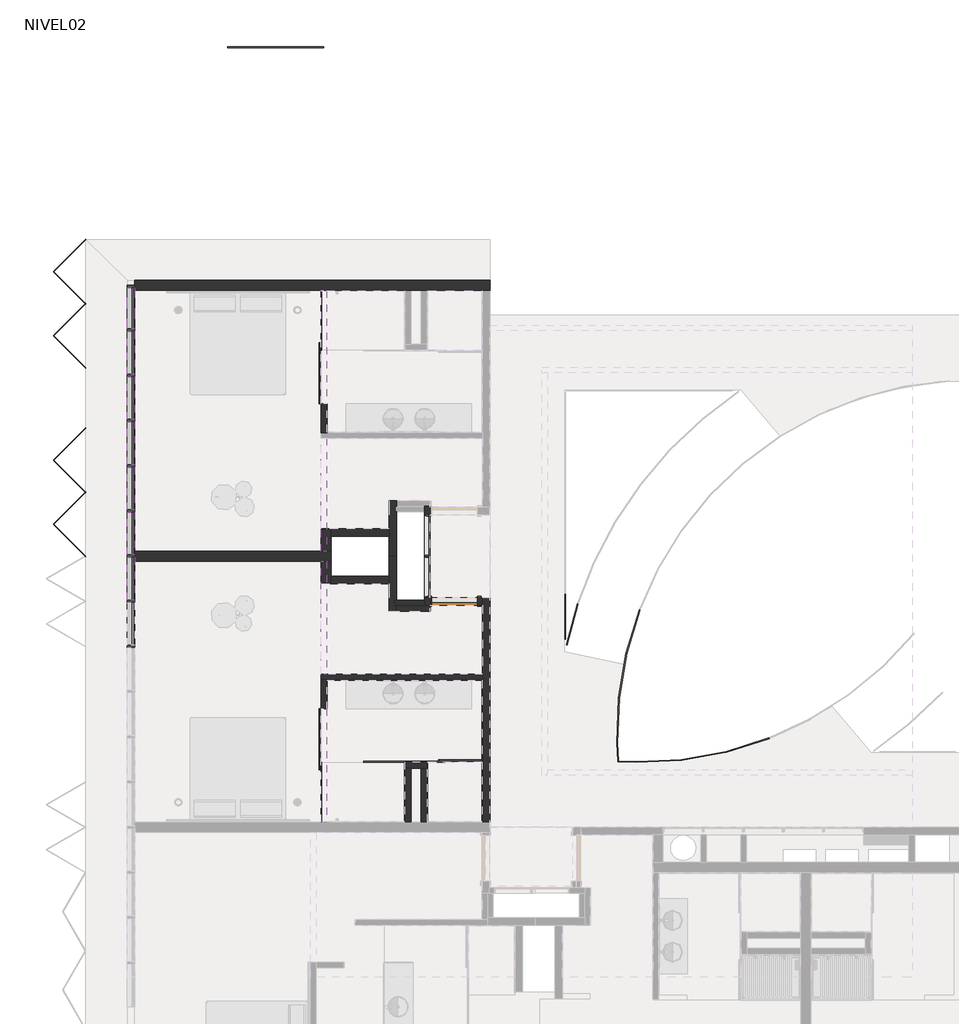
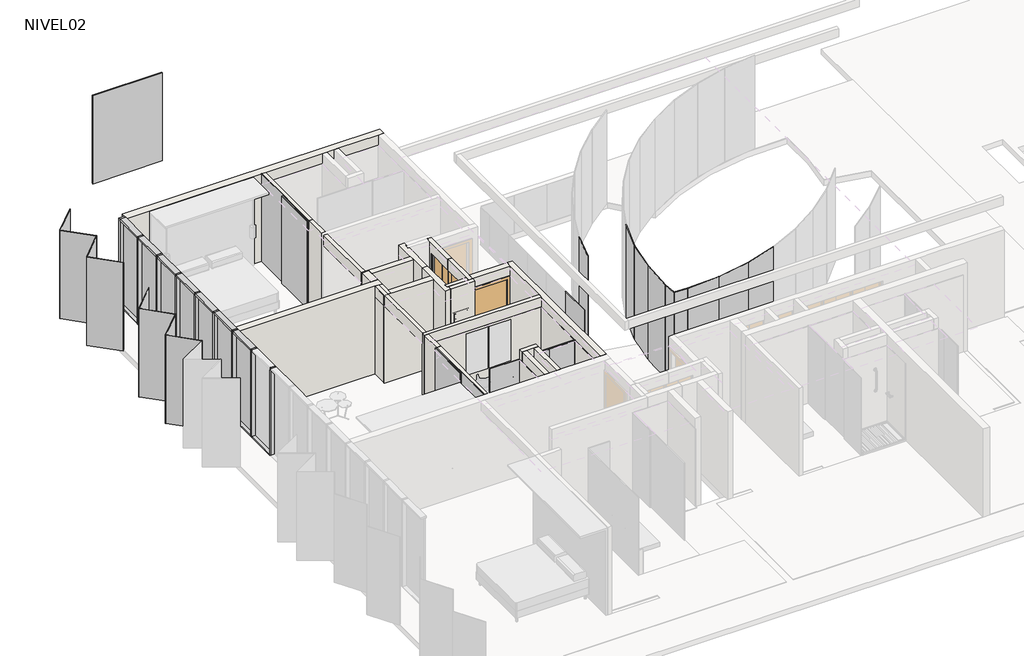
# One storey, part 5 of 9: 30 walls, 25 plates, 24 members, 3 doors.
"""IFC4 building model written with IfcOpenShell, lengths in millimetres."""

from ifc_helpers import new_model, si_unit, frame, origin, place, context, project, spatial, polyline, outline, extrude, faceted_brep, transform, mapped, element, save
from components import m_single_flush_910x_224_d199ccfa, puerta_closet_shaft_82_5_x_224cm_10222c01, puerta_closet_shaft_82_5_x_224cm_6ba6ac82, rectangular_mullion_50_x_150mm_8dc60d6a, rectangular_mullion_50_x_150mm_324a6438, rectangular_mullion_50_x_150mm_33c2bde1, rectangular_mullion_50_x_150mm_da4cfd0d, folding_hd_folding_hd_45_306ecaba, panel_corredera_cr_panel_corredera_1cb9417a, panel_corredera_cr_panel_corredera_8db39db7, panel_corredera_cr_panel_corredera_0b5135b5, system_panel_5ccbd7a3, system_panel_d16f8cfc, system_panel_5bddcc3b, system_panel_ba3bad07, system_panel_cr_shower_c0953742, system_panel_cr_shower_685ec66b, system_panel_cr_shower_d0c7b907, system_panel_glazed_2e5426c8, system_panel_glazed_8b30d0e9, system_panel_glazed_8b1c2311

model = new_model("IFC4")

# Units and contexts
model_context = context("Model", 3, world=origin())
ifc_project = project(units=[si_unit("LENGTHUNIT", "METRE", prefix="MILLI")], contexts=[model_context])

# Site, building, storey
site = spatial("IfcSite", under=ifc_project)
building = spatial("IfcBuilding", under=site)
storey = spatial("IfcBuildingStorey", under=building, Name="NIVEL02", Elevation=2500.0)

# Doors
placement = place(None, origin())
m_single_flush_910x_224_shape = m_single_flush_910x_224_d199ccfa(model_context)
element("IfcDoor", 1, ObjectType="M_Single-Flush : 910x 224", at=placement, inside=storey, context=model_context, shape_type="MappedRepresentation", body=[
    mapped(m_single_flush_910x_224_shape, transform((-14191.0934748, 4233.9139241, 2500.0), x_axis=(1.0, 0.0, 0.0), y_axis=(0.0, 1.0, 0.0), z_axis=(0.0, 0.0, 1.0))),
])
puerta_closet_shaft_82_5_x_224cm_shape = puerta_closet_shaft_82_5_x_224cm_10222c01(model_context)
element("IfcDoor", 2, ObjectType="PUERTA CLOSET SHAFT : 82.5 x 224cm", at=placement, inside=storey, context=model_context, shape_type="MappedRepresentation", body=[
    mapped(puerta_closet_shaft_82_5_x_224cm_shape, transform((-14728.5934748, 4404.8823532, 2500.0), x_axis=(0.0, -1.0, 0.0), y_axis=(1.0, 0.0, 0.0), z_axis=(0.0, 0.0, 1.0))),
])
puerta_closet_shaft_82_5_x_224cm_2_shape = puerta_closet_shaft_82_5_x_224cm_6ba6ac82(model_context)
element("IfcDoor", 3, ObjectType="PUERTA CLOSET SHAFT : 82.5 x 224cm", at=placement, inside=storey, context=model_context, shape_type="MappedRepresentation", body=[
    mapped(puerta_closet_shaft_82_5_x_224cm_2_shape, transform((-14728.5934748, 5862.9454949, 2500.0), x_axis=(0.0, 1.0, 0.0), y_axis=(-1.0, 0.0, 0.0), z_axis=(0.0, 0.0, 1.0))),
])

# Members
rectangular_mullion_50_x_150mm_shape = rectangular_mullion_50_x_150mm_8dc60d6a(model_context)
element("IfcMember", 4, ObjectType="Rectangular Mullion : 50 x 150mm", at=placement, inside=storey, context=model_context, shape_type="MappedRepresentation", body=[
    mapped(rectangular_mullion_50_x_150mm_shape, transform((-20633.5934748, 9658.9139237, 5050.0), x_axis=(0.0, 0.0, 1.0), y_axis=(-1.0, 0.0, 0.0), z_axis=(0.0, -1.0, 0.0))),
])
rectangular_mullion_50_x_150mm_2_shape = rectangular_mullion_50_x_150mm_324a6438(model_context)
element("IfcMember", 5, ObjectType="Rectangular Mullion : 50 x 150mm", at=placement, inside=storey, context=model_context, shape_type="MappedRepresentation", body=[
    mapped(rectangular_mullion_50_x_150mm_2_shape, transform((-20633.5934748, 8758.9139237, 5050.0), x_axis=(0.0, 0.0, 1.0), y_axis=(-1.0, 0.0, 0.0), z_axis=(0.0, -1.0, 0.0))),
])
element("IfcMember", 6, ObjectType="Rectangular Mullion : 50 x 150mm", at=placement, inside=storey, context=model_context, shape_type="MappedRepresentation", body=[
    mapped(rectangular_mullion_50_x_150mm_2_shape, transform((-20633.5934748, 7858.9139237, 5050.0), x_axis=(0.0, 0.0, 1.0), y_axis=(-1.0, 0.0, 0.0), z_axis=(0.0, -1.0, 0.0))),
])
element("IfcMember", 7, ObjectType="Rectangular Mullion : 50 x 150mm", at=placement, inside=storey, context=model_context, shape_type="MappedRepresentation", body=[
    mapped(rectangular_mullion_50_x_150mm_2_shape, transform((-20633.5934748, 6958.9139237, 5050.0), x_axis=(0.0, 0.0, 1.0), y_axis=(-1.0, 0.0, 0.0), z_axis=(0.0, -1.0, 0.0))),
])
element("IfcMember", 8, ObjectType="Rectangular Mullion : 50 x 150mm", at=placement, inside=storey, context=model_context, shape_type="MappedRepresentation", body=[
    mapped(rectangular_mullion_50_x_150mm_2_shape, transform((-20633.5934748, 6058.9139237, 5050.0), x_axis=(0.0, 0.0, 1.0), y_axis=(-1.0, 0.0, 0.0), z_axis=(0.0, -1.0, 0.0))),
])
element("IfcMember", 9, ObjectType="Rectangular Mullion : 50 x 150mm", at=placement, inside=storey, context=model_context, shape_type="MappedRepresentation", body=[
    mapped(rectangular_mullion_50_x_150mm_2_shape, transform((-20633.5934748, 5158.9139237, 5050.0), x_axis=(0.0, 0.0, 1.0), y_axis=(-1.0, 0.0, 0.0), z_axis=(0.0, -1.0, 0.0))),
])
element("IfcMember", 10, ObjectType="Rectangular Mullion : 50 x 150mm", at=placement, inside=storey, context=model_context, shape_type="MappedRepresentation", body=[
    mapped(rectangular_mullion_50_x_150mm_2_shape, transform((-20633.5934748, 4258.9139237, 5050.0), x_axis=(0.0, 0.0, 1.0), y_axis=(-1.0, 0.0, 0.0), z_axis=(0.0, -1.0, 0.0))),
])
element("IfcMember", 11, ObjectType="Rectangular Mullion : 50 x 150mm", at=placement, inside=storey, context=model_context, shape_type="MappedRepresentation", body=[
    mapped(rectangular_mullion_50_x_150mm_shape, transform((-20633.5934748, 10483.9139241, 2480.0), x_axis=(0.0, 0.0, -1.0), y_axis=(-1.0, 0.0, 0.0), z_axis=(0.0, 1.0, 0.0))),
])
element("IfcMember", 12, ObjectType="Rectangular Mullion : 50 x 150mm", at=placement, inside=storey, context=model_context, shape_type="MappedRepresentation", body=[
    mapped(rectangular_mullion_50_x_150mm_2_shape, transform((-20633.5934748, 9608.9139237, 2480.0), x_axis=(0.0, 0.0, -1.0), y_axis=(-1.0, 0.0, 0.0), z_axis=(0.0, 1.0, 0.0))),
])
element("IfcMember", 13, ObjectType="Rectangular Mullion : 50 x 150mm", at=placement, inside=storey, context=model_context, shape_type="MappedRepresentation", body=[
    mapped(rectangular_mullion_50_x_150mm_2_shape, transform((-20633.5934748, 8708.9139237, 2480.0), x_axis=(0.0, 0.0, -1.0), y_axis=(-1.0, 0.0, 0.0), z_axis=(0.0, 1.0, 0.0))),
])
element("IfcMember", 14, ObjectType="Rectangular Mullion : 50 x 150mm", at=placement, inside=storey, context=model_context, shape_type="MappedRepresentation", body=[
    mapped(rectangular_mullion_50_x_150mm_2_shape, transform((-20633.5934748, 7808.9139237, 2480.0), x_axis=(0.0, 0.0, -1.0), y_axis=(-1.0, 0.0, 0.0), z_axis=(0.0, 1.0, 0.0))),
])
element("IfcMember", 15, ObjectType="Rectangular Mullion : 50 x 150mm", at=placement, inside=storey, context=model_context, shape_type="MappedRepresentation", body=[
    mapped(rectangular_mullion_50_x_150mm_2_shape, transform((-20633.5934748, 6908.9139237, 2480.0), x_axis=(0.0, 0.0, -1.0), y_axis=(-1.0, 0.0, 0.0), z_axis=(0.0, 1.0, 0.0))),
])
element("IfcMember", 16, ObjectType="Rectangular Mullion : 50 x 150mm", at=placement, inside=storey, context=model_context, shape_type="MappedRepresentation", body=[
    mapped(rectangular_mullion_50_x_150mm_2_shape, transform((-20633.5934748, 6008.9139237, 2480.0), x_axis=(0.0, 0.0, -1.0), y_axis=(-1.0, 0.0, 0.0), z_axis=(0.0, 1.0, 0.0))),
])
element("IfcMember", 17, ObjectType="Rectangular Mullion : 50 x 150mm", at=placement, inside=storey, context=model_context, shape_type="MappedRepresentation", body=[
    mapped(rectangular_mullion_50_x_150mm_2_shape, transform((-20633.5934748, 5108.9139237, 2480.0), x_axis=(0.0, 0.0, -1.0), y_axis=(-1.0, 0.0, 0.0), z_axis=(0.0, 1.0, 0.0))),
])
element("IfcMember", 18, ObjectType="Rectangular Mullion : 50 x 150mm", at=placement, inside=storey, context=model_context, shape_type="MappedRepresentation", body=[
    mapped(rectangular_mullion_50_x_150mm_2_shape, transform((-20633.5934748, 4208.9139237, 2480.0), x_axis=(0.0, 0.0, -1.0), y_axis=(-1.0, 0.0, 0.0), z_axis=(0.0, 1.0, 0.0))),
])
rectangular_mullion_50_x_150mm_3_shape = rectangular_mullion_50_x_150mm_33c2bde1(model_context)
element("IfcMember", 19, ObjectType="Rectangular Mullion : 50 x 150mm", at=placement, inside=storey, context=model_context, shape_type="MappedRepresentation", body=[
    mapped(rectangular_mullion_50_x_150mm_3_shape, transform((-20633.5934748, 9633.9139237, 2480.0), x_axis=(0.0, -1.0, 0.0), y_axis=(-1.0, 0.0, 0.0), z_axis=(0.0, 0.0, -1.0))),
])
element("IfcMember", 20, ObjectType="Rectangular Mullion : 50 x 150mm", at=placement, inside=storey, context=model_context, shape_type="MappedRepresentation", body=[
    mapped(rectangular_mullion_50_x_150mm_3_shape, transform((-20633.5934748, 8733.9139237, 2480.0), x_axis=(0.0, -1.0, 0.0), y_axis=(-1.0, 0.0, 0.0), z_axis=(0.0, 0.0, -1.0))),
])
element("IfcMember", 21, ObjectType="Rectangular Mullion : 50 x 150mm", at=placement, inside=storey, context=model_context, shape_type="MappedRepresentation", body=[
    mapped(rectangular_mullion_50_x_150mm_3_shape, transform((-20633.5934748, 7833.9139237, 2480.0), x_axis=(0.0, -1.0, 0.0), y_axis=(-1.0, 0.0, 0.0), z_axis=(0.0, 0.0, -1.0))),
])
element("IfcMember", 22, ObjectType="Rectangular Mullion : 50 x 150mm", at=placement, inside=storey, context=model_context, shape_type="MappedRepresentation", body=[
    mapped(rectangular_mullion_50_x_150mm_3_shape, transform((-20633.5934748, 6933.9139237, 2480.0), x_axis=(0.0, -1.0, 0.0), y_axis=(-1.0, 0.0, 0.0), z_axis=(0.0, 0.0, -1.0))),
])
element("IfcMember", 23, ObjectType="Rectangular Mullion : 50 x 150mm", at=placement, inside=storey, context=model_context, shape_type="MappedRepresentation", body=[
    mapped(rectangular_mullion_50_x_150mm_3_shape, transform((-20633.5934748, 6033.9139237, 2480.0), x_axis=(0.0, -1.0, 0.0), y_axis=(-1.0, 0.0, 0.0), z_axis=(0.0, 0.0, -1.0))),
])
element("IfcMember", 24, ObjectType="Rectangular Mullion : 50 x 150mm", at=placement, inside=storey, context=model_context, shape_type="MappedRepresentation", body=[
    mapped(rectangular_mullion_50_x_150mm_3_shape, transform((-20633.5934748, 5133.9139237, 2480.0), x_axis=(0.0, -1.0, 0.0), y_axis=(-1.0, 0.0, 0.0), z_axis=(0.0, 0.0, -1.0))),
])
element("IfcMember", 25, ObjectType="Rectangular Mullion : 50 x 150mm", at=placement, inside=storey, context=model_context, shape_type="MappedRepresentation", body=[
    mapped(rectangular_mullion_50_x_150mm_3_shape, transform((-20633.5934748, 4233.9139237, 2480.0), x_axis=(0.0, -1.0, 0.0), y_axis=(-1.0, 0.0, 0.0), z_axis=(0.0, 0.0, -1.0))),
])
element("IfcMember", 26, ObjectType="Rectangular Mullion : 50 x 150mm", at=placement, inside=storey, context=model_context, shape_type="MappedRepresentation", body=[
    mapped(rectangular_mullion_50_x_150mm_3_shape, transform((-20633.5934748, 3333.9139237, 2480.0), x_axis=(0.0, -1.0, 0.0), y_axis=(-1.0, 0.0, 0.0), z_axis=(0.0, 0.0, -1.0))),
])
rectangular_mullion_50_x_150mm_4_shape = rectangular_mullion_50_x_150mm_da4cfd0d(model_context)
element("IfcMember", 27, ObjectType="Rectangular Mullion : 50 x 150mm", at=placement, inside=storey, context=model_context, shape_type="MappedRepresentation", body=[
    mapped(rectangular_mullion_50_x_150mm_4_shape, transform((-20633.5934748, 10533.9139241, 5050.0), x_axis=(0.0, 1.0, 0.0), y_axis=(-1.0, 0.0, 0.0), z_axis=(0.0, 0.0, 1.0))),
])

# Plates
folding_hd_folding_hd_45_shape = folding_hd_folding_hd_45_306ecaba(model_context)
element("IfcPlate", 28, ObjectType="FOLDING HD : FOLDING HD 45", at=placement, inside=storey, context=model_context, shape_type="MappedRepresentation", body=[
    mapped(folding_hd_folding_hd_45_shape, transform((-21533.5934748, 8283.9139241, 2480.0), x_axis=(0.0, -1.0, 0.0), y_axis=(1.0, 0.0, 0.0), z_axis=(0.0, 0.0, 1.0))),
])
panel_corredera_cr_panel_corredera_shape = panel_corredera_cr_panel_corredera_1cb9417a(model_context)
element("IfcPlate", 29, ObjectType="PANEL CORREDERA : CR_PANEL CORREDERA", at=placement, inside=storey, context=model_context, shape_type="MappedRepresentation", body=[
    mapped(panel_corredera_cr_panel_corredera_shape, transform((-13994.9268082, 1033.9139241, 2500.0), x_axis=(-1.0, 0.0, 0.0), y_axis=(0.0, -1.0, 0.0), z_axis=(0.0, 0.0, 1.0))),
])
panel_corredera_cr_panel_corredera_2_shape = panel_corredera_cr_panel_corredera_8db39db7(model_context)
element("IfcPlate", 30, ObjectType="PANEL CORREDERA : CR_PANEL CORREDERA", at=placement, inside=storey, context=model_context, shape_type="MappedRepresentation", body=[
    mapped(panel_corredera_cr_panel_corredera_2_shape, transform((-16848.5934748, 8703.9139241, 2500.0), x_axis=(0.0, 1.0, 0.0), y_axis=(-1.0, 0.0, 0.0), z_axis=(0.0, 0.0, 1.0))),
])
panel_corredera_cr_panel_corredera_3_shape = panel_corredera_cr_panel_corredera_0b5135b5(model_context)
element("IfcPlate", 31, ObjectType="PANEL CORREDERA : CR_PANEL CORREDERA", at=placement, inside=storey, context=model_context, shape_type="MappedRepresentation", body=[
    mapped(panel_corredera_cr_panel_corredera_3_shape, transform((-16848.5934748, 1563.9139241, 2500.0), x_axis=(0.0, -1.0, 0.0), y_axis=(1.0, 0.0, 0.0), z_axis=(0.0, 0.0, 1.0))),
])
system_panel_shape = system_panel_5ccbd7a3(model_context)
element("IfcPlate", 32, ObjectType="System Panel : CR-BARANDA", at=placement, inside=storey, context=model_context, shape_type="MappedRepresentation", body=[
    mapped(system_panel_shape, transform((-11983.5934748, 3929.0707631, 2500.0), x_axis=(0.0, 1.0, 0.0), y_axis=(-1.0, 0.0, 0.0), z_axis=(0.0, 0.0, 1.0))),
])
system_panel_2_shape = system_panel_d16f8cfc(model_context)
element("IfcPlate", 33, ObjectType="System Panel : CR-BARANDA", at=placement, inside=storey, context=model_context, shape_type="MappedRepresentation", body=[
    mapped(system_panel_2_shape, transform((-10631.3650965, 3630.2261992, 2500.0), x_axis=(-0.2903871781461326, -0.9569092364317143, 0.0), y_axis=(0.9569092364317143, -0.2903871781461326, 0.0), z_axis=(0.0, 0.0, 1.0))),
])
element("IfcPlate", 34, ObjectType="System Panel : CR-BARANDA", at=placement, inside=storey, context=model_context, shape_type="MappedRepresentation", body=[
    mapped(system_panel_2_shape, transform((-10836.7728129, 2755.8660923, 2500.0), x_axis=(-0.16607441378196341, -0.9861132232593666, 0.0), y_axis=(0.9861132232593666, -0.16607441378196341, 0.0), z_axis=(0.0, 0.0, 1.0))),
])
element("IfcPlate", 35, ObjectType="System Panel : CR-BARANDA", at=placement, inside=storey, context=model_context, shape_type="MappedRepresentation", body=[
    mapped(system_panel_2_shape, transform((-10929.0803971, 1862.4584383, 2500.0), x_axis=(-0.03905355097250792, -0.9992371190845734, 0.0), y_axis=(0.9992371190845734, -0.03905355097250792, 0.0), z_axis=(0.0, 0.0, 1.0))),
])
system_panel_3_shape = system_panel_5bddcc3b(model_context)
element("IfcPlate", 36, ObjectType="System Panel : CR-BARANDA", at=placement, inside=storey, context=model_context, shape_type="MappedRepresentation", body=[
    mapped(system_panel_3_shape, transform((-10937.3624941, 1230.0346436, 2500.0), x_axis=(0.05077508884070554, -0.9987101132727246, 0.0), y_axis=(0.9987101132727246, 0.05077508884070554, 0.0), z_axis=(0.0, 0.0, 1.0))),
])
element("IfcPlate", 37, ObjectType="System Panel : CR-BARANDA", at=placement, inside=storey, context=model_context, shape_type="MappedRepresentation", body=[
    mapped(system_panel_2_shape, transform((-8348.5964138, 1372.8791877, 2500.0), x_axis=(-0.9535973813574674, -0.301084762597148, 0.0), y_axis=(0.301084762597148, -0.9535973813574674, 0.0), z_axis=(0.0, 0.0, 1.0))),
])
element("IfcPlate", 38, ObjectType="System Panel : CR-BARANDA", at=placement, inside=storey, context=model_context, shape_type="MappedRepresentation", body=[
    mapped(system_panel_2_shape, transform((-9220.6014704, 1157.6929714, 2500.0), x_axis=(-0.9841916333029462, -0.1771068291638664, 0.0), y_axis=(0.1771068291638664, -0.9841916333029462, 0.0), z_axis=(0.0, 0.0, 1.0))),
])
element("IfcPlate", 39, ObjectType="System Panel : CR-BARANDA", at=placement, inside=storey, context=model_context, shape_type="MappedRepresentation", body=[
    mapped(system_panel_2_shape, transform((-10112.9194133, 1055.3864947, 2500.0), x_axis=(-0.9987371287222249, -0.0502408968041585, 0.0), y_axis=(0.0502408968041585, -0.9987371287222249, 0.0), z_axis=(0.0, 0.0, 1.0))),
])
element("IfcPlate", 40, ObjectType="System Panel : CR-BARANDA", at=placement, inside=storey, context=model_context, shape_type="MappedRepresentation", body=[
    mapped(system_panel_3_shape, transform((-10745.2108072, 1040.0228218, 2500.0), x_axis=(-0.9992160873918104, 0.039588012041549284, 0.0), y_axis=(-0.039588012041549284, -0.9992160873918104, 0.0), z_axis=(0.0, 0.0, 1.0))),
])
system_panel_4_shape = system_panel_ba3bad07(model_context)
element("IfcPlate", 41, ObjectType="System Panel : CR-BARANDA", at=placement, inside=storey, context=model_context, shape_type="MappedRepresentation", body=[
    mapped(system_panel_4_shape, transform((-11842.8761734, 3772.8420443, 2500.0), x_axis=(-0.2652720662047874, -0.9641735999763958, 0.0), y_axis=(0.9641735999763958, -0.2652720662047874, 0.0), z_axis=(0.0, 0.0, 1.0))),
])
system_panel_cr_shower_shape = system_panel_cr_shower_c0953742(model_context)
element("IfcPlate", 42, ObjectType="System Panel : CR-SHOWER", at=placement, inside=storey, context=model_context, shape_type="MappedRepresentation", body=[
    mapped(system_panel_cr_shower_shape, transform((-15178.9268082, 1033.9139241, 2500.0), x_axis=(1.0, 0.0, 0.0), y_axis=(0.0, 1.0, 0.0), z_axis=(0.0, 0.0, 1.0))),
])
system_panel_cr_shower_2_shape = system_panel_cr_shower_685ec66b(model_context)
element("IfcPlate", 43, ObjectType="System Panel : CR-SHOWER", at=placement, inside=storey, context=model_context, shape_type="MappedRepresentation", body=[
    mapped(system_panel_cr_shower_2_shape, transform((-16848.5934748, 9833.9139241, 2500.0), x_axis=(0.0, 1.0, 0.0), y_axis=(-1.0, 0.0, 0.0), z_axis=(0.0, 0.0, 1.0))),
])
system_panel_cr_shower_3_shape = system_panel_cr_shower_d0c7b907(model_context)
element("IfcPlate", 44, ObjectType="System Panel : CR-SHOWER", at=placement, inside=storey, context=model_context, shape_type="MappedRepresentation", body=[
    mapped(system_panel_cr_shower_3_shape, transform((-16848.5934748, 433.9139241, 2500.0), x_axis=(0.0, -1.0, 0.0), y_axis=(1.0, 0.0, 0.0), z_axis=(0.0, 0.0, 1.0))),
])
system_panel_glazed_shape = system_panel_glazed_2e5426c8(model_context)
element("IfcPlate", 45, ObjectType="System Panel : Glazed", at=placement, inside=storey, context=model_context, shape_type="MappedRepresentation", body=[
    mapped(system_panel_glazed_shape, transform((-17751.0143037, 15233.9139241, 2480.0), x_axis=(1.0, 0.0, 0.0), y_axis=(0.0, 1.0, 0.0), z_axis=(0.0, 0.0, 1.0))),
])
system_panel_glazed_2_shape = system_panel_glazed_8b30d0e9(model_context)
element("IfcPlate", 46, ObjectType="System Panel : Glazed", at=placement, inside=storey, context=model_context, shape_type="MappedRepresentation", body=[
    mapped(system_panel_glazed_2_shape, transform((-20633.5934748, 10071.4139239, 2530.0), x_axis=(0.0, -1.0, 0.0), y_axis=(1.0, 0.0, 0.0), z_axis=(0.0, 0.0, 1.0))),
])
system_panel_glazed_3_shape = system_panel_glazed_8b1c2311(model_context)
element("IfcPlate", 47, ObjectType="System Panel : Glazed", at=placement, inside=storey, context=model_context, shape_type="MappedRepresentation", body=[
    mapped(system_panel_glazed_3_shape, transform((-20633.5934748, 9183.9139237, 2530.0), x_axis=(0.0, -1.0, 0.0), y_axis=(1.0, 0.0, 0.0), z_axis=(0.0, 0.0, 1.0))),
])
element("IfcPlate", 48, ObjectType="System Panel : Glazed", at=placement, inside=storey, context=model_context, shape_type="MappedRepresentation", body=[
    mapped(system_panel_glazed_3_shape, transform((-20633.5934748, 8283.9139237, 2530.0), x_axis=(0.0, -1.0, 0.0), y_axis=(1.0, 0.0, 0.0), z_axis=(0.0, 0.0, 1.0))),
])
element("IfcPlate", 49, ObjectType="System Panel : Glazed", at=placement, inside=storey, context=model_context, shape_type="MappedRepresentation", body=[
    mapped(system_panel_glazed_3_shape, transform((-20633.5934748, 7383.9139237, 2530.0), x_axis=(0.0, -1.0, 0.0), y_axis=(1.0, 0.0, 0.0), z_axis=(0.0, 0.0, 1.0))),
])
element("IfcPlate", 50, ObjectType="System Panel : Glazed", at=placement, inside=storey, context=model_context, shape_type="MappedRepresentation", body=[
    mapped(system_panel_glazed_3_shape, transform((-20633.5934748, 6483.9139237, 2530.0), x_axis=(0.0, -1.0, 0.0), y_axis=(1.0, 0.0, 0.0), z_axis=(0.0, 0.0, 1.0))),
])
element("IfcPlate", 51, ObjectType="System Panel : Glazed", at=placement, inside=storey, context=model_context, shape_type="MappedRepresentation", body=[
    mapped(system_panel_glazed_3_shape, transform((-20633.5934748, 5583.9139237, 2530.0), x_axis=(0.0, -1.0, 0.0), y_axis=(1.0, 0.0, 0.0), z_axis=(0.0, 0.0, 1.0))),
])
element("IfcPlate", 52, ObjectType="System Panel : Glazed", at=placement, inside=storey, context=model_context, shape_type="MappedRepresentation", body=[
    mapped(system_panel_glazed_3_shape, transform((-20633.5934748, 4683.9139237, 2530.0), x_axis=(0.0, -1.0, 0.0), y_axis=(1.0, 0.0, 0.0), z_axis=(0.0, 0.0, 1.0))),
])

# Walls
element("IfcWall", 53, ObjectType="SCV.TI.A.150.120.212.47.1", at=placement, inside=storey, context=model_context, shape_type="Brep", body=[
    faceted_brep([(-13483.5934748, -166.0860759, 2480.0), (-13483.5934748, 4308.9139241, 2480.0), (-13483.5934748, 4308.9139241, 5050.0), (-13483.5934748, -166.0860759, 5050.0), (-13633.5934748, -166.0860759, 2480.0), (-13633.5934748, -166.0860759, 5050.0), (-13633.5934748, 2673.9139241, 5050.0), (-13633.5934748, 2783.9139241, 5050.0), (-13633.5934748, 4158.9139241, 5050.0), (-13633.5934748, 4308.9139241, 5050.0), (-13633.5934748, 4308.9139241, 2480.0), (-13633.5934748, 4158.9139241, 2480.0), (-13633.5934748, 2783.9139241, 2480.0), (-13633.5934748, 2673.9139241, 2480.0)], [[[0, 1, 2, 3]], [[4, 5, 6, 7, 8, 9, 10, 11, 12, 13]], [[1, 0, 4, 13, 12, 11, 10]], [[3, 2, 9, 8, 7, 6, 5]], [[0, 3, 5, 4]], [[2, 1, 10, 9]]]),
])
element("IfcWall", 54, ObjectType="SCV.TI.A.110.090.143.47.1", at=placement, inside=storey, context=model_context, shape_type="Brep", body=[
    faceted_brep([(-14783.5934748, 6123.9139241, 2480.0), (-14783.5934748, 6013.9139241, 2480.0), (-14783.5934748, 5128.3504322, 2480.0), (-14783.5934748, 5128.3504322, 2500.0), (-14783.5934748, 5958.9139241, 2500.0), (-14783.5934748, 5958.9139241, 4740.0), (-14783.5934748, 5128.3504322, 4740.0), (-14783.5934748, 5128.3504322, 5050.0), (-14783.5934748, 6013.9139241, 5050.0), (-14783.5934748, 6123.9139241, 5050.0), (-14673.5934748, 5128.3504322, 2480.0), (-14673.5934748, 5958.9139241, 2480.0), (-14673.5934748, 6108.9139241, 2480.0), (-14673.5934748, 6123.9139241, 2480.0), (-14673.5934748, 6123.9139241, 5050.0), (-14673.5934748, 6108.9139241, 5050.0), (-14673.5934748, 5958.9139241, 5050.0), (-14673.5934748, 5128.3504322, 5050.0), (-14673.5934748, 5128.3504322, 4740.0), (-14673.5934748, 5958.9139241, 4740.0), (-14673.5934748, 5958.9139241, 2500.0), (-14673.5934748, 5128.3504322, 2500.0)], [[[0, 1, 2, 3, 4, 5, 6, 7, 8, 9]], [[10, 11, 12, 13, 14, 15, 16, 17, 18, 19, 20, 21]], [[2, 1, 0, 13, 12, 11, 10]], [[2, 10, 21, 3]], [[17, 7, 6, 18]], [[9, 8, 7, 17, 16, 15, 14]], [[5, 19, 18, 6]], [[20, 4, 3, 21]], [[4, 20, 19, 5]], [[0, 9, 14, 13]]]),
])
element("IfcWall", 55, ObjectType="SCV.TI.A.110.090.143.47.1", at=placement, inside=storey, context=model_context, shape_type="Brep", body=[
    faceted_brep([(-16738.5934748, 7593.9139241, 5050.0), (-16738.5934748, 7593.9139241, 2480.0), (-16738.5934748, 8173.9139241, 2480.0), (-16738.5934748, 8173.9139241, 4805.0), (-16738.5934748, 8173.9139241, 5050.0), (-16848.5934748, 7593.9139241, 2480.0), (-16848.5934748, 7593.9139241, 5050.0), (-16848.5934748, 8173.9139241, 5050.0), (-16848.5934748, 8173.9139241, 2480.0)], [[[0, 1, 2, 3, 4]], [[5, 6, 7, 8]], [[2, 1, 5, 8]], [[4, 3, 2, 8, 7]], [[0, 4, 7, 6]], [[0, 6, 5, 1]]]),
])
element("IfcWall", 56, ObjectType="REV-PORCELANATO_60*60", at=placement, inside=storey, context=model_context, shape_type="Brep", body=[
    faceted_brep([(-16728.5934748, 7593.9139241, 2520.0), (-16728.5934748, 7603.9139241, 2520.0), (-16728.5934748, 8173.9139241, 2520.0), (-16728.5934748, 8173.9139241, 4760.0), (-16728.5934748, 7603.9139241, 4760.0), (-16728.5934748, 7593.9139241, 4760.0), (-16738.5934748, 7593.9139241, 2520.0), (-16738.5934748, 7593.9139241, 4760.0), (-16738.5934748, 8173.9139241, 4760.0), (-16738.5934748, 8173.9139241, 2520.0)], [[[0, 1, 2, 3, 4, 5]], [[6, 7, 8, 9]], [[2, 1, 0, 6, 9]], [[3, 2, 9, 8]], [[5, 4, 3, 8, 7]], [[0, 5, 7, 6]]]),
])
element("IfcWall", 57, ObjectType="SCV.TI.A.110.090.143.47.1 2", at=placement, inside=storey, context=model_context, shape_type="SweptSolid", body=[
    extrude(outline(polyline([(8173.9139241, 5050.0), (10428.9139241, 5050.0), (10428.9139241, 4750.0), (10423.9139241, 4750.0), (10423.9139241, 4805.0), (8173.9139241, 4805.0), (8173.9139241, 5050.0)])), frame((-16848.5934748, 0.0, 0.0), z_axis=(1.0, 0.0, 0.0), x_axis=(0.0, 1.0, 0.0)), (0.0, 0.0, 1.0), 110.0),
])
element("IfcWall", 58, ObjectType="SCV.TI.A.110.090.143.47.1 2", at=placement, inside=storey, context=model_context, shape_type="SweptSolid", body=[
    extrude(outline(polyline([(-16848.5934748, 5233.9139241), (-16848.5934748, 7483.9139241), (-16738.5934748, 7483.9139241), (-16738.5934748, 5233.9139241), (-16848.5934748, 5233.9139241)])), frame((0.0, 0.0, 4750.0), z_axis=(0.0, 0.0, 1.0), x_axis=(1.0, 0.0, 0.0)), (0.0, 0.0, 1.0), 300.0),
])
element("IfcWall", 59, ObjectType="SCV.TI.A.150.120.212.47.1", at=placement, inside=storey, context=model_context, shape_type="Brep", body=[
    faceted_brep([(-15343.5934748, 6233.9139241, 2480.0), (-15343.5934748, 6233.9139241, 5050.0), (-15343.5934748, 6123.9139241, 5050.0), (-15343.5934748, 6123.9139241, 2480.0), (-15343.5934748, 5133.9139241, 5050.0), (-15343.5934748, 5133.9139241, 2480.0), (-15343.5934748, 6013.9139241, 2480.0), (-15343.5934748, 6013.9139241, 5050.0), (-15493.5934748, 6233.9139241, 2480.0), (-15493.5934748, 5683.9139241, 2480.0), (-15493.5934748, 5533.9139241, 2480.0), (-15493.5934748, 5133.9139241, 2480.0), (-15493.5934748, 5133.9139241, 5050.0), (-15493.5934748, 5533.9139241, 5050.0), (-15493.5934748, 5683.9139241, 5050.0), (-15493.5934748, 6233.9139241, 5050.0), (-15373.5934748, 6123.9139241, 2480.0), (-15373.5934748, 6013.9139241, 2480.0), (-15373.5934748, 6013.9139241, 5050.0), (-15373.5934748, 6123.9139241, 5050.0)], [[[0, 1, 2, 3]], [[4, 5, 6, 7]], [[8, 9, 10, 11, 12, 13, 14, 15]], [[11, 10, 9, 8, 0, 3, 16, 17, 6, 5]], [[15, 14, 13, 12, 4, 7, 18, 19, 2, 1]], [[5, 4, 12, 11]], [[1, 0, 8, 15]], [[19, 16, 3, 2]], [[17, 18, 7, 6]], [[16, 19, 18, 17]]]),
])
element("IfcWall", 60, ObjectType="SCV.TI.A.150.120.212.47.1", at=placement, inside=storey, context=model_context, shape_type="SweptSolid", body=[
    extrude(outline(polyline([(-16848.5934748, 5683.9139241), (-15493.5934748, 5683.9139241), (-15493.5934748, 5533.9139241), (-16648.5934748, 5533.9139241), (-16648.5934748, 5668.9139241), (-16848.5934748, 5668.9139241), (-16848.5934748, 5683.9139241)])), frame((0.0, 0.0, 2480.0), z_axis=(0.0, 0.0, 1.0), x_axis=(1.0, 0.0, 0.0)), (0.0, 0.0, 1.0), 2570.0),
])
element("IfcWall", 61, ObjectType="SCV.TI.A.110.090.143.47.1", at=placement, inside=storey, context=model_context, shape_type="Brep", body=[
    faceted_brep([(-14673.5934748, 4143.9139241, 2480.0), (-14673.5934748, 4158.9139241, 2480.0), (-14673.5934748, 4308.9139241, 2480.0), (-14673.5934748, 5139.4774159, 2480.0), (-14673.5934748, 5139.4774159, 2500.0), (-14673.5934748, 4308.9139241, 2500.0), (-14673.5934748, 4308.9139241, 4740.0), (-14673.5934748, 5139.4774159, 4740.0), (-14673.5934748, 5139.4774159, 5050.0), (-14673.5934748, 4308.9139241, 5050.0), (-14673.5934748, 4158.9139241, 5050.0), (-14673.5934748, 4143.9139241, 5050.0), (-14783.5934748, 5139.4774159, 2480.0), (-14783.5934748, 4253.9139241, 2480.0), (-14783.5934748, 4143.9139241, 2480.0), (-14783.5934748, 4143.9139241, 5050.0), (-14783.5934748, 4253.9139241, 5050.0), (-14783.5934748, 5139.4774159, 5050.0), (-14783.5934748, 5139.4774159, 4740.0), (-14783.5934748, 4308.9139241, 4740.0), (-14783.5934748, 4308.9139241, 2500.0), (-14783.5934748, 5139.4774159, 2500.0)], [[[0, 1, 2, 3, 4, 5, 6, 7, 8, 9, 10, 11]], [[12, 13, 14, 15, 16, 17, 18, 19, 20, 21]], [[3, 2, 1, 0, 14, 13, 12]], [[3, 12, 21, 4]], [[17, 8, 7, 18]], [[11, 10, 9, 8, 17, 16, 15]], [[6, 19, 18, 7]], [[20, 5, 4, 21]], [[5, 20, 19, 6]], [[0, 11, 15, 14]]]),
])
element("IfcWall", 62, ObjectType="SCV.TI.A.150.120.212.47.1", at=placement, inside=storey, context=model_context, shape_type="Brep", body=[
    faceted_brep([(-13633.5934748, 4308.9139241, 2480.0), (-14673.5934748, 4308.9139241, 2480.0), (-14673.5934748, 4308.9139241, 2500.0), (-14673.5934748, 4308.9139241, 4740.0), (-14673.5934748, 4308.9139241, 5050.0), (-13633.5934748, 4308.9139241, 5050.0), (-14648.5934748, 4308.9139241, 2500.0), (-13733.5934748, 4308.9139241, 2500.0), (-13733.5934748, 4308.9139241, 4700.0), (-14648.5934748, 4308.9139241, 4700.0), (-14673.5934748, 4158.9139241, 2480.0), (-13633.5934748, 4158.9139241, 2480.0), (-13633.5934748, 4158.9139241, 5050.0), (-14673.5934748, 4158.9139241, 5050.0), (-13733.5934748, 4158.9139241, 2500.0), (-14648.5934748, 4158.9139241, 2500.0), (-14648.5934748, 4158.9139241, 4700.0), (-13733.5934748, 4158.9139241, 4700.0)], [[[0, 1, 2, 3, 4, 5], [6, 7, 8, 9]], [[10, 11, 12, 13], [14, 15, 16, 17]], [[1, 0, 11, 10]], [[5, 4, 13, 12]], [[6, 15, 14, 7]], [[8, 17, 16, 9]], [[15, 6, 9, 16]], [[17, 8, 7, 14]], [[0, 5, 12, 11]], [[4, 3, 2, 1, 10, 13]]]),
])
element("IfcWall", 63, ObjectType="SCV.TI.A.110.090.143.47.1", at=placement, inside=storey, context=model_context, shape_type="Brep", body=[
    faceted_brep([(-13633.5934748, 2783.9139241, 2480.0), (-16848.5934748, 2783.9139241, 2480.0), (-16848.5934748, 2783.9139241, 4750.0), (-16848.5934748, 2783.9139241, 5050.0), (-16738.5934748, 2783.9139241, 5050.0), (-13633.5934748, 2783.9139241, 5050.0), (-13633.5934748, 2673.9139241, 2480.0), (-13633.5934748, 2673.9139241, 5050.0), (-16738.5934748, 2673.9139241, 5050.0), (-16848.5934748, 2673.9139241, 5050.0), (-16848.5934748, 2673.9139241, 2480.0), (-16738.5934748, 2673.9139241, 2480.0)], [[[0, 1, 2, 3, 4, 5]], [[6, 7, 8, 9, 10, 11]], [[1, 0, 6, 11, 10]], [[5, 4, 3, 9, 8, 7]], [[1, 10, 9, 3, 2]], [[0, 5, 7, 6]]]),
])
element("IfcWall", 64, ObjectType="SCV.TI.A.110.090.143.47.1", at=placement, inside=storey, context=model_context, shape_type="Brep", body=[
    faceted_brep([(-14673.5934748, 4143.9139241, 2480.0), (-14783.5934748, 4143.9139241, 2480.0), (-15343.5934748, 4143.9139241, 2480.0), (-15343.5934748, 4143.9139241, 5050.0), (-14783.5934748, 4143.9139241, 5050.0), (-14673.5934748, 4143.9139241, 5050.0), (-14673.5934748, 4033.9139241, 2480.0), (-14673.5934748, 4033.9139241, 5050.0), (-15343.5934748, 4033.9139241, 5050.0), (-15343.5934748, 4033.9139241, 2480.0)], [[[0, 1, 2, 3, 4, 5]], [[6, 7, 8, 9]], [[2, 1, 0, 6, 9]], [[5, 4, 3, 8, 7]], [[0, 5, 7, 6]], [[3, 2, 9, 8]]]),
])
element("IfcWall", 65, ObjectType="SCV.TI.A.120.120.122.46.2", at=placement, inside=storey, context=model_context, shape_type="SweptSolid", body=[
    extrude(outline(polyline([(-15053.5934748, 913.9139241), (-15053.5934748, -166.0860759), (-15173.5934748, -166.0860759), (-15173.5934748, 913.9139241), (-15053.5934748, 913.9139241)])), frame((0.0, 0.0, 2480.0), z_axis=(0.0, 0.0, 1.0), x_axis=(1.0, 0.0, 0.0)), (0.0, 0.0, 1.0), 2570.0),
])
element("IfcWall", 66, ObjectType="SCV.TI.A.120.120.122.46.2", at=placement, inside=storey, context=model_context, shape_type="Brep", body=[
    faceted_brep([(-15173.5934748, 913.9139241, 2480.0), (-15053.5934748, 913.9139241, 2480.0), (-14853.5934748, 913.9139241, 2480.0), (-14733.5934748, 913.9139241, 2480.0), (-14733.5934748, 913.9139241, 5050.0), (-14853.5934748, 913.9139241, 5050.0), (-15053.5934748, 913.9139241, 5050.0), (-15173.5934748, 913.9139241, 5050.0), (-15173.5934748, 1033.9139241, 2480.0), (-15173.5934748, 1033.9139241, 5050.0), (-14733.5934748, 1033.9139241, 5050.0), (-14733.5934748, 1033.9139241, 2480.0)], [[[0, 1, 2, 3, 4, 5, 6, 7]], [[8, 9, 10, 11]], [[3, 2, 1, 0, 8, 11]], [[7, 6, 5, 4, 10, 9]], [[4, 3, 11, 10]], [[0, 7, 9, 8]]]),
])
element("IfcWall", 67, ObjectType="SCV.TI.A.120.120.122.46.2", at=placement, inside=storey, context=model_context, shape_type="SweptSolid", body=[
    extrude(outline(polyline([(-14853.5934748, -166.0860759), (-14853.5934748, 913.9139241), (-14733.5934748, 913.9139241), (-14733.5934748, -166.0860759), (-14853.5934748, -166.0860759)])), frame((0.0, 0.0, 2480.0), z_axis=(0.0, 0.0, 1.0), x_axis=(1.0, 0.0, 0.0)), (0.0, 0.0, 1.0), 2570.0),
])
element("IfcWall", 68, ObjectType="SCV.TI.A.110.090.143.47.1", at=placement, inside=storey, context=model_context, shape_type="Brep", body=[
    faceted_brep([(-16848.5934748, 2673.9139241, 5050.0), (-16848.5934748, 2673.9139241, 2480.0), (-16848.5934748, 2093.9139241, 2480.0), (-16848.5934748, 2093.9139241, 5050.0), (-16738.5934748, 2673.9139241, 2480.0), (-16738.5934748, 2673.9139241, 5050.0), (-16738.5934748, 2093.9139241, 5050.0), (-16738.5934748, 2093.9139241, 4805.0), (-16738.5934748, 2093.9139241, 2480.0)], [[[0, 1, 2, 3]], [[4, 5, 6, 7, 8]], [[2, 1, 4, 8]], [[3, 2, 8, 7, 6]], [[0, 3, 6, 5]], [[0, 5, 4, 1]]]),
])
element("IfcWall", 69, ObjectType="REV-PORCELANATO_60*60", at=placement, inside=storey, context=model_context, shape_type="Brep", body=[
    faceted_brep([(-16738.5934748, 2673.9139241, 2520.0), (-16738.5934748, 2093.9139241, 2520.0), (-16738.5934748, 2093.9139241, 4760.0), (-16738.5934748, 2673.9139241, 4760.0), (-16728.5934748, 2673.9139241, 2520.0), (-16728.5934748, 2673.9139241, 4760.0), (-16728.5934748, 2663.9139241, 4760.0), (-16728.5934748, 2093.9139241, 4760.0), (-16728.5934748, 2093.9139241, 2520.0), (-16728.5934748, 2663.9139241, 2520.0)], [[[0, 1, 2, 3]], [[4, 5, 6, 7, 8, 9]], [[1, 0, 4, 9, 8]], [[2, 1, 8, 7]], [[3, 2, 7, 6, 5]], [[0, 3, 5, 4]]]),
])
element("IfcWall", 70, ObjectType="REV-PORCELANATO_60*60", at=placement, inside=storey, context=model_context, shape_type="Brep", body=[
    faceted_brep([(-13633.5934748, 2673.9139241, 2520.0), (-16728.5934748, 2673.9139241, 2520.0), (-16728.5934748, 2673.9139241, 4760.0), (-13633.5934748, 2673.9139241, 4760.0), (-13633.5934748, 2663.9139241, 2520.0), (-13633.5934748, 2663.9139241, 4760.0), (-13643.5934748, 2663.9139241, 4760.0), (-16728.5934748, 2663.9139241, 4760.0), (-16728.5934748, 2663.9139241, 2520.0), (-13643.5934748, 2663.9139241, 2520.0)], [[[0, 1, 2, 3]], [[4, 5, 6, 7, 8, 9]], [[1, 0, 4, 9, 8]], [[3, 2, 7, 6, 5]], [[0, 3, 5, 4]], [[2, 1, 8, 7]]]),
])
element("IfcWall", 71, ObjectType="REV-PORCELANATO_60*60", at=placement, inside=storey, context=model_context, shape_type="Brep", body=[
    faceted_brep([(-13643.5934748, 2663.9139241, 2520.0), (-13643.5934748, -156.0860759, 2520.0), (-13643.5934748, -166.0860759, 2520.0), (-13643.5934748, -166.0860759, 4760.0), (-13643.5934748, -156.0860759, 4760.0), (-13643.5934748, 2663.9139241, 4760.0), (-13633.5934748, 2663.9139241, 2520.0), (-13633.5934748, 2663.9139241, 4760.0), (-13633.5934748, -166.0860759, 4760.0), (-13633.5934748, -166.0860759, 2520.0)], [[[0, 1, 2, 3, 4, 5]], [[6, 7, 8, 9]], [[2, 1, 0, 6, 9]], [[5, 4, 3, 8, 7]], [[3, 2, 9, 8]], [[0, 5, 7, 6]]]),
])
element("IfcWall", 72, ObjectType="REV-PORCELANATO_60*60", at=placement, inside=storey, context=model_context, shape_type="SweptSolid", body=[
    extrude(outline(polyline([(-14733.5934748, -156.0860759), (-14733.5934748, 1033.9139241), (-14723.5934748, 1033.9139241), (-14723.5934748, -156.0860759), (-14733.5934748, -156.0860759)])), frame((0.0, 0.0, 2520.0), z_axis=(0.0, 0.0, 1.0), x_axis=(1.0, 0.0, 0.0)), (0.0, 0.0, 1.0), 2240.0),
])
element("IfcWall", 73, ObjectType="REV-PORCELANATO_60*60", at=placement, inside=storey, context=model_context, shape_type="Brep", body=[
    faceted_brep([(-15183.5934748, 1033.9139241, 2500.0), (-15183.5934748, -156.0860759, 2500.0), (-15183.5934748, -166.0860759, 2500.0), (-15183.5934748, -166.0860759, 4760.0), (-15183.5934748, -156.0860759, 4760.0), (-15183.5934748, 1033.9139241, 4760.0), (-15173.5934748, 1033.9139241, 2500.0), (-15173.5934748, 1033.9139241, 4760.0), (-15173.5934748, -166.0860759, 4760.0), (-15173.5934748, -166.0860759, 2500.0)], [[[0, 1, 2, 3, 4, 5]], [[6, 7, 8, 9]], [[2, 1, 0, 6, 9]], [[5, 4, 3, 8, 7]], [[0, 5, 7, 6]], [[3, 2, 9, 8]]]),
])
element("IfcWall", 74, ObjectType="SCV.TI.A.110.090.143.47.1 2", at=placement, inside=storey, context=model_context, shape_type="SweptSolid", body=[
    extrude(outline(polyline([(-161.0860759, 5050.0), (2093.9139241, 5050.0), (2093.9139241, 4805.0), (-156.0860759, 4805.0), (-156.0860759, 4750.0), (-161.0860759, 4750.0), (-161.0860759, 5050.0)])), frame((-16848.5934748, 0.0, 0.0), z_axis=(1.0, 0.0, 0.0), x_axis=(0.0, 1.0, 0.0)), (0.0, 0.0, 1.0), 110.0),
])
element("IfcWall", 75, ObjectType="SCV.TI.A.110.090.143.47.1 2", at=placement, inside=storey, context=model_context, shape_type="SweptSolid", body=[
    extrude(outline(polyline([(-16738.5934748, 5033.9139241), (-16738.5934748, 2783.9139241), (-16848.5934748, 2783.9139241), (-16848.5934748, 5033.9139241), (-16738.5934748, 5033.9139241)])), frame((0.0, 0.0, 4750.0), z_axis=(0.0, 0.0, 1.0), x_axis=(1.0, 0.0, 0.0)), (0.0, 0.0, 1.0), 300.0),
])
element("IfcWall", 76, ObjectType="SCV.TI.A.110.090.143.47.1", at=placement, inside=storey, context=model_context, shape_type="Brep", body=[
    faceted_brep([(-14783.5934748, 4253.9139241, 2480.0), (-15373.5934748, 4253.9139241, 2480.0), (-15373.5934748, 4253.9139241, 5050.0), (-14783.5934748, 4253.9139241, 5050.0), (-14783.5934748, 4143.9139241, 2480.0), (-14783.5934748, 4143.9139241, 5050.0), (-15343.5934748, 4143.9139241, 5050.0), (-15373.5934748, 4143.9139241, 5050.0), (-15373.5934748, 4143.9139241, 2480.0), (-15343.5934748, 4143.9139241, 2480.0)], [[[0, 1, 2, 3]], [[4, 5, 6, 7, 8, 9]], [[1, 0, 4, 9, 8]], [[2, 1, 8, 7]], [[3, 2, 7, 6, 5]], [[0, 3, 5, 4]]]),
])
element("IfcWall", 77, ObjectType="SCV.TI.A.150.120.212.47.1", at=placement, inside=storey, context=model_context, shape_type="Brep", body=[
    faceted_brep([(-15493.5934748, 5133.9139241, 2480.0), (-15493.5934748, 4733.9139241, 2480.0), (-15493.5934748, 4583.9139241, 2480.0), (-15493.5934748, 4033.9139241, 2480.0), (-15493.5934748, 4033.9139241, 5050.0), (-15493.5934748, 4583.9139241, 5050.0), (-15493.5934748, 4733.9139241, 5050.0), (-15493.5934748, 5133.9139241, 5050.0), (-15343.5934748, 5133.9139241, 2480.0), (-15343.5934748, 5133.9139241, 5050.0), (-15343.5934748, 4143.9139241, 5050.0), (-15343.5934748, 4033.9139241, 5050.0), (-15343.5934748, 4033.9139241, 2480.0), (-15343.5934748, 4143.9139241, 2480.0)], [[[0, 1, 2, 3, 4, 5, 6, 7]], [[8, 9, 10, 11, 12, 13]], [[3, 2, 1, 0, 8, 13, 12]], [[7, 6, 5, 4, 11, 10, 9]], [[0, 7, 9, 8]], [[4, 3, 12, 11]]]),
])
element("IfcWall", 78, ObjectType="SCV.TI.A.150.120.212.47.1", at=placement, inside=storey, context=model_context, shape_type="SweptSolid", body=[
    extrude(outline(polyline([(-15493.5934748, 4583.9139241), (-16848.5934748, 4583.9139241), (-16848.5934748, 4598.9139241), (-16648.5934748, 4598.9139241), (-16648.5934748, 4733.9139241), (-15493.5934748, 4733.9139241), (-15493.5934748, 4583.9139241)])), frame((0.0, 0.0, 2480.0), z_axis=(0.0, 0.0, 1.0), x_axis=(1.0, 0.0, 0.0)), (0.0, 0.0, 1.0), 2570.0),
])
element("IfcWall", 79, ObjectType="HA-200mm", at=placement, inside=storey, context=model_context, shape_type="Brep", body=[
    faceted_brep([(-16648.5934748, 5233.9139241, 2480.0), (-20558.5934748, 5233.9139241, 2480.0), (-20558.5934748, 5233.9139241, 5050.0), (-16848.5934748, 5233.9139241, 5050.0), (-16738.5934748, 5233.9139241, 5050.0), (-16648.5934748, 5233.9139241, 5050.0), (-16648.5934748, 5033.9139241, 2480.0), (-16648.5934748, 5033.9139241, 5050.0), (-16738.5934748, 5033.9139241, 5050.0), (-16848.5934748, 5033.9139241, 5050.0), (-20558.5934748, 5033.9139241, 5050.0), (-20558.5934748, 5033.9139241, 2480.0)], [[[0, 1, 2, 3, 4, 5]], [[6, 7, 8, 9, 10, 11]], [[1, 0, 6, 11]], [[2, 1, 11, 10]], [[5, 4, 3, 2, 10, 9, 8, 7]], [[0, 5, 7, 6]]]),
])
element("IfcWall", 80, ObjectType="HA-200mm", at=placement, inside=storey, context=model_context, shape_type="Brep", body=[
    faceted_brep([(-20558.5934748, 10433.9139241, 2480.0), (-15173.5934748, 10433.9139241, 2480.0), (-15053.5934748, 10433.9139241, 2480.0), (-14853.5934748, 10433.9139241, 2480.0), (-14733.5934748, 10433.9139241, 2480.0), (-13633.5934748, 10433.9139241, 2480.0), (-13483.5934748, 10433.9139241, 2480.0), (-13483.5934748, 10433.9139241, 5050.0), (-13633.5934748, 10433.9139241, 5050.0), (-14733.5934748, 10433.9139241, 5050.0), (-14853.5934748, 10433.9139241, 5050.0), (-15053.5934748, 10433.9139241, 5050.0), (-15173.5934748, 10433.9139241, 5050.0), (-20558.5934748, 10433.9139241, 5050.0), (-20558.5934748, 10633.9139241, 2480.0), (-20558.5934748, 10633.9139241, 5050.0), (-13483.5934748, 10633.9139241, 5050.0), (-13483.5934748, 10633.9139241, 2480.0)], [[[0, 1, 2, 3, 4, 5, 6, 7, 8, 9, 10, 11, 12, 13]], [[14, 15, 16, 17]], [[6, 5, 4, 3, 2, 1, 0, 14, 17]], [[13, 12, 11, 10, 9, 8, 7, 16, 15]], [[0, 13, 15, 14]], [[7, 6, 17, 16]]]),
])
element("IfcWall", 81, ObjectType="HA-200mm", at=placement, inside=storey, context=model_context, shape_type="Brep", body=[
    faceted_brep([(-16648.5934748, 5233.9139241, 2480.0), (-16648.5934748, 5533.9139241, 2480.0), (-16648.5934748, 5668.9139241, 2480.0), (-16648.5934748, 5668.9139241, 5050.0), (-16648.5934748, 5533.9139241, 5050.0), (-16648.5934748, 5233.9139241, 5050.0), (-16848.5934748, 5233.9139241, 2480.0), (-16848.5934748, 5233.9139241, 5050.0), (-16848.5934748, 5668.9139241, 5050.0), (-16848.5934748, 5668.9139241, 2480.0)], [[[0, 1, 2, 3, 4, 5]], [[6, 7, 8, 9]], [[2, 1, 0, 6, 9]], [[3, 2, 9, 8]], [[5, 4, 3, 8, 7]], [[0, 5, 7, 6]]]),
])
element("IfcWall", 82, ObjectType="HA-200mm", at=placement, inside=storey, context=model_context, shape_type="Brep", body=[
    faceted_brep([(-16848.5934748, 5033.9139241, 2480.0), (-16848.5934748, 4598.9139241, 2480.0), (-16848.5934748, 4598.9139241, 5050.0), (-16848.5934748, 5033.9139241, 5050.0), (-16648.5934748, 5033.9139241, 2480.0), (-16648.5934748, 5033.9139241, 5050.0), (-16648.5934748, 4733.9139241, 5050.0), (-16648.5934748, 4598.9139241, 5050.0), (-16648.5934748, 4598.9139241, 2480.0), (-16648.5934748, 4733.9139241, 2480.0)], [[[0, 1, 2, 3]], [[4, 5, 6, 7, 8, 9]], [[1, 0, 4, 9, 8]], [[2, 1, 8, 7]], [[3, 2, 7, 6, 5]], [[0, 3, 5, 4]]]),
])

save(model, "model.ifc")
